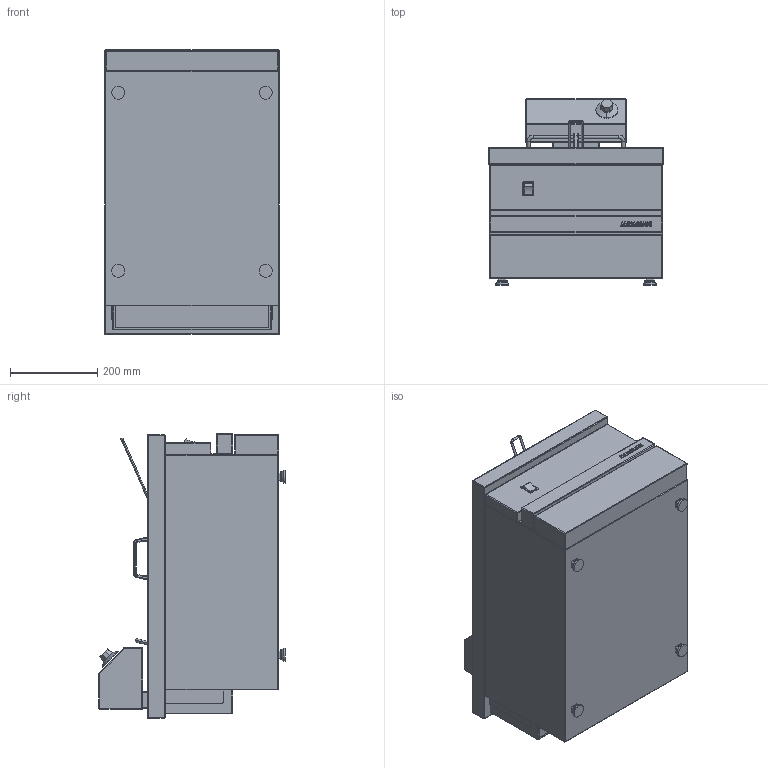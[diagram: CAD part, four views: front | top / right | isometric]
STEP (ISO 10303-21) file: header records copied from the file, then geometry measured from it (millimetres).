
FILE_DESCRIPTION((''),'2;1');
FILE_NAME('CSE416FR_EXPORT_STEP_ASM','2017-11-22T',('r.avril'),(''),'PRO/ENGINEER BY PARAMETRIC TECHNOLOGY CORPORATION, 2014200','PRO/ENGINEER BY PARAMETRIC TECHNOLOGY CORPORATION, 2014200','');
FILE_SCHEMA(('AP203_CONFIGURATION_CONTROLLED_3D_DESIGN_OF_MECHANICAL_PARTS_AND_ASSEMBLIES_MIM_LF { 1 0 10303 403 2 1 2 }'));
Length unit declared in the file: millimetre
Products named in the file (6): SNACKS_AMB_400_EXPORT_STEP; TABLE_CSE_415_416_FR; MANETTE_FRITEUSE_EXPORT_STEP; TABLE_CSE_415_416_FR_ASM; BASCULEUR_AMB_EXPORT_DXF; CSE416FR_EXPORT_STEP_ASM
Assembly tree (5 placements, depth 3):
  CSE416FR_EXPORT_STEP_ASM
    SNACKS_AMB_400_EXPORT_STEP
    TABLE_CSE_415_416_FR_ASM
      TABLE_CSE_415_416_FR
      MANETTE_FRITEUSE_EXPORT_STEP
    BASCULEUR_AMB_EXPORT_DXF
Bounding box: 400 x 426.5 x 652.1 mm (x, y, z)
Volume: 26376748.3 mm3; surface area: 3077610 mm2
Topology: 10 solids, 28 shells, 630 faces, 2099 edges, 1757 vertices
Faces by surface type: cylinder 242, plane 218, sphere 58, bspline 58, torus 36, cone 18
Entity records: 29821 total; most frequent: CARTESIAN_POINT 9536, DIRECTION 3426, ORIENTED_EDGE 3221, EDGE_CURVE 1835, VERTEX_POINT 1257, AXIS2_PLACEMENT_3D 1196, VECTOR 1016, LINE 1016
